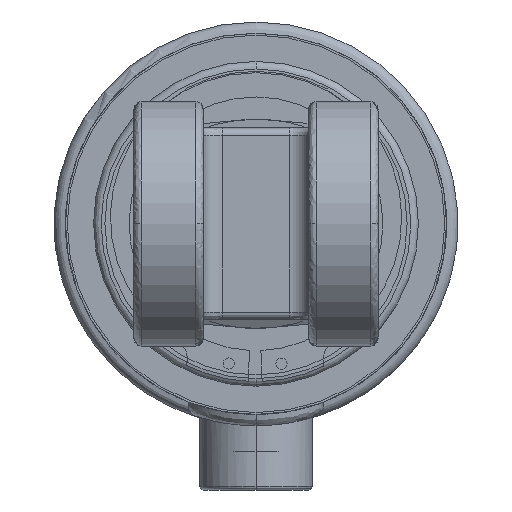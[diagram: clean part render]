
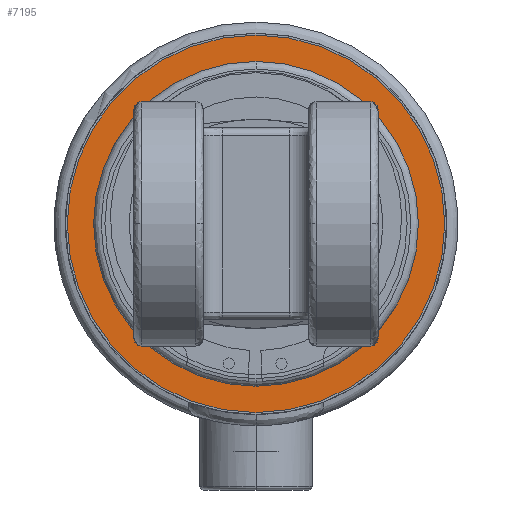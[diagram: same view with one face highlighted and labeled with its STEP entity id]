
A CAD part, left-side view. The second image highlights one B-rep face of the part: STEP entity #7195.
In plain terms, the highlighted planar face has unit normal (-1, 0, 0).
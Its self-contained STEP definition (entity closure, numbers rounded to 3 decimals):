
#105 = EDGE_CURVE ( 'NONE', #2435, #5371, #8907, .T. ) ;
#254 = CIRCLE ( 'NONE', #2980, 43.2 ) ;
#605 = VERTEX_POINT ( 'NONE', #5760 ) ;
#853 = DIRECTION ( 'NONE',  ( -1., 0., 0. ) ) ;
#919 = CIRCLE ( 'NONE', #9538, 43.2 ) ;
#1119 = DIRECTION ( 'NONE',  ( -1., 0., 0. ) ) ;
#1577 = CARTESIAN_POINT ( 'NONE',  ( -1027.005, 0., -50.2 ) ) ;
#2263 = DIRECTION ( 'NONE',  ( -1., 0., 0. ) ) ;
#2435 = VERTEX_POINT ( 'NONE', #5864 ) ;
#2446 = ORIENTED_EDGE ( 'NONE', *, *, #3651, .F. ) ;
#2980 = AXIS2_PLACEMENT_3D ( 'NONE', #8299, #3066, #9183 ) ;
#3066 = DIRECTION ( 'NONE',  ( -1., 0., 0. ) ) ;
#3088 = AXIS2_PLACEMENT_3D ( 'NONE', #10810, #9079, #3836 ) ;
#3651 = EDGE_CURVE ( 'NONE', #605, #8443, #254, .T. ) ;
#3836 = DIRECTION ( 'NONE',  ( 0., 0., 1. ) ) ;
#3977 = AXIS2_PLACEMENT_3D ( 'NONE', #6085, #853, #6964 ) ;
#4032 = EDGE_LOOP ( 'NONE', ( #8600, #11214 ) ) ;
#4090 = FACE_BOUND ( 'NONE', #8675, .T. ) ;
#4115 = CIRCLE ( 'NONE', #7897, 50.2 ) ;
#5180 = EDGE_CURVE ( 'NONE', #5371, #2435, #4115, .T. ) ;
#5371 = VERTEX_POINT ( 'NONE', #1577 ) ;
#5760 = CARTESIAN_POINT ( 'NONE',  ( -1027.005, 0., -43.2 ) ) ;
#5864 = CARTESIAN_POINT ( 'NONE',  ( -1027.005, 0., 50.2 ) ) ;
#6085 = CARTESIAN_POINT ( 'NONE',  ( -1027.005, 0., 0. ) ) ;
#6347 = CARTESIAN_POINT ( 'NONE',  ( -1027.005, 0., 0. ) ) ;
#6734 = CARTESIAN_POINT ( 'NONE',  ( -1027.005, 0., 43.2 ) ) ;
#6964 = DIRECTION ( 'NONE',  ( 0., 0., 1. ) ) ;
#7195 = ADVANCED_FACE ( 'NONE', ( #10811, #4090 ), #8193, .T. ) ;
#7235 = DIRECTION ( 'NONE',  ( 0., 0., 1. ) ) ;
#7385 = EDGE_CURVE ( 'NONE', #8443, #605, #919, .T. ) ;
#7486 = CARTESIAN_POINT ( 'NONE',  ( -1027.005, 0., 0. ) ) ;
#7897 = AXIS2_PLACEMENT_3D ( 'NONE', #6347, #1119, #7235 ) ;
#8193 = PLANE ( 'NONE',  #3088 ) ;
#8299 = CARTESIAN_POINT ( 'NONE',  ( -1027.005, 0., 0. ) ) ;
#8380 = DIRECTION ( 'NONE',  ( 0., 0., 1. ) ) ;
#8443 = VERTEX_POINT ( 'NONE', #6734 ) ;
#8600 = ORIENTED_EDGE ( 'NONE', *, *, #105, .T. ) ;
#8675 = EDGE_LOOP ( 'NONE', ( #9148, #2446 ) ) ;
#8907 = CIRCLE ( 'NONE', #3977, 50.2 ) ;
#9079 = DIRECTION ( 'NONE',  ( -1., 0., 0. ) ) ;
#9148 = ORIENTED_EDGE ( 'NONE', *, *, #7385, .F. ) ;
#9183 = DIRECTION ( 'NONE',  ( 0., 0., 1. ) ) ;
#9538 = AXIS2_PLACEMENT_3D ( 'NONE', #7486, #2263, #8380 ) ;
#10810 = CARTESIAN_POINT ( 'NONE',  ( -1027.005, 0., -50.2 ) ) ;
#10811 = FACE_OUTER_BOUND ( 'NONE', #4032, .T. ) ;
#11214 = ORIENTED_EDGE ( 'NONE', *, *, #5180, .T. ) ;
